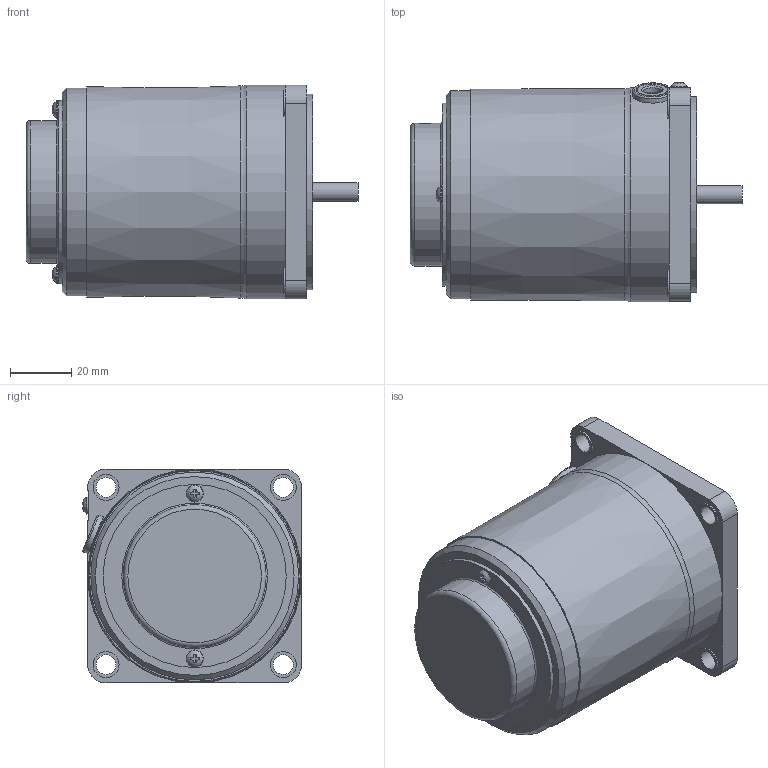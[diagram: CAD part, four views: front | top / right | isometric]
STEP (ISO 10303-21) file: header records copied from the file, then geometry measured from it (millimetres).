
FILE_DESCRIPTION(/* description */ (''),/* implementation_level */ '2;1');
FILE_NAME(/* name */ 'E:\도면작업\2016\0704) 미주향 SG 도면\3D MOTOR\SPEED CONTROL TYPE\SG7I(R)15G_-S12(24).stp',/* time_stamp */ '2017-08-21T10:55:41+09:00',/* author */ ('jy-jung'),/* organization */ (''),/* preprocessor_version */ 'ST-DEVELOPER v15.6',/* originating_system */ 'Autodesk Inventor 2015',/* authorisation */ '');
FILE_SCHEMA (('AUTOMOTIVE_DESIGN { 1 0 10303 214 3 1 1 }'));
Length unit declared in the file: millimetre
Products named in the file (1): 부품27
Bounding box: 108.6 x 71.76 x 70 mm (x, y, z)
Volume: 326515.1 mm3; surface area: 33067.8 mm2
Topology: 1 solids, 6 shells, 166 faces, 394 edges, 256 vertices
Faces by surface type: plane 104, cylinder 46, torus 10, bspline 3, cone 3
Full cylindrical faces by diameter (mm): 3 x2, 3.5 x2, 5 x1, 5.6 x3, 5.96 x1, 6 x1, 6.5 x4, 8.5 x4, 10 x1, 28 x1, 44.7 x1, 46.7 x1, 47.7 x1, 59.9 x1, 64 x1, 68 x1, 70 x1
Entity records: 5061 total; most frequent: CARTESIAN_POINT 1196, DIRECTION 736, ORIENTED_EDGE 702, EDGE_CURVE 351, AXIS2_PLACEMENT_3D 273, VERTEX_POINT 253, EDGE_LOOP 238, LINE 190
